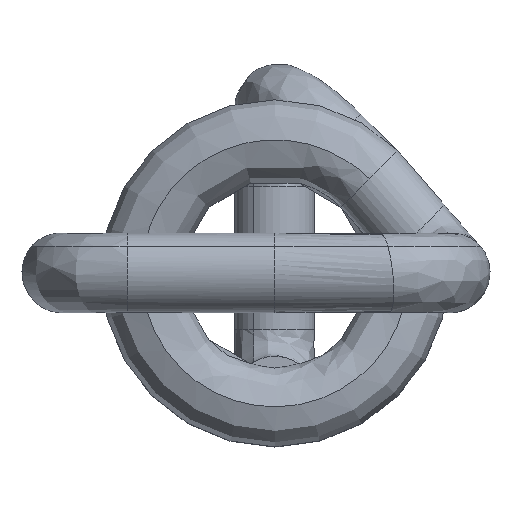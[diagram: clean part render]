
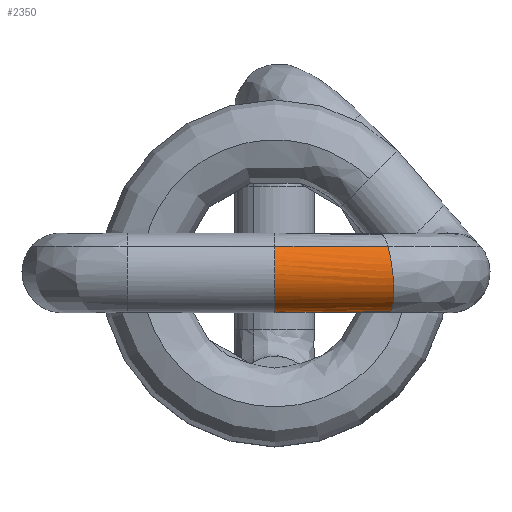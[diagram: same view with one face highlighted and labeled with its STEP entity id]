
A CAD part, top view. The second image highlights one B-rep face of the part: STEP entity #2350.
In plain terms, the highlighted free-form (B-spline) face has degree [3, 1] with [7, 2] control points.
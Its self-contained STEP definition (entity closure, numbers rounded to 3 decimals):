
#13 = CARTESIAN_POINT ( 'NONE',  ( -0.01, -7.278, 20.264 ) ) ;
#22 = LINE ( 'NONE', #184, #2021 ) ;
#46 = DIRECTION ( 'NONE',  ( -1., 0., 0.009 ) ) ;
#71 = CARTESIAN_POINT ( 'NONE',  ( -0.009, -5.831, 21.093 ) ) ;
#139 = LINE ( 'NONE', #805, #558 ) ;
#165 =( BOUNDED_SURFACE ( )  B_SPLINE_SURFACE ( 3, 1, ( 
 ( #1249, #1805 ),
 ( #2199, #1048 ),
 ( #640, #2002 ),
 ( #844, #2393 ),
 ( #1229, #1240 ),
 ( #655, #2211 ),
 ( #1058, #2047 ) ),
 .UNSPECIFIED., .F., .F., .F. ) 
 B_SPLINE_SURFACE_WITH_KNOTS ( ( 4, 3, 4 ),
 ( 2, 2 ),
 ( 0., 0.5, 1. ),
 ( 0., 1. ),
 .UNSPECIFIED. ) 
 GEOMETRIC_REPRESENTATION_ITEM ( )  RATIONAL_B_SPLINE_SURFACE ( (
 ( 1., 1.),
 ( 0.802, 0.802),
 ( 0.802, 0.802),
 ( 1., 1.),
 ( 0.802, 0.802),
 ( 0.802, 0.802),
 ( 1., 1.) ) ) 
 REPRESENTATION_ITEM ( '' )  SURFACE ( )  );
#184 = CARTESIAN_POINT ( 'NONE',  ( 3.982, -6.938, 18.459 ) ) ;
#246 = CARTESIAN_POINT ( 'NONE',  ( -0.009, -6.219, 21.063 ) ) ;
#271 = CARTESIAN_POINT ( 'NONE',  ( -0.009, -5.094, 20.854 ) ) ;
#299 = ORIENTED_EDGE ( 'NONE', *, *, #1197, .F. ) ;
#316 = CARTESIAN_POINT ( 'NONE',  ( 4.221, -4.947, 20.69 ) ) ;
#401 = EDGE_LOOP ( 'NONE', ( #299, #2409, #1605, #1232 ) ) ;
#408 = CARTESIAN_POINT ( 'NONE',  ( -0.011, -7.375, 19.128 ) ) ;
#415 = EDGE_CURVE ( 'NONE', #2134, #1171, #1230, .T. ) ;
#465 = CIRCLE ( 'NONE', #1001, 1.5 ) ;
#558 = VECTOR ( 'NONE', #46, 1000. ) ;
#572 = EDGE_CURVE ( 'NONE', #1883, #2134, #22, .T. ) ;
#616 = CARTESIAN_POINT ( 'NONE',  ( -0.01, -7.441, 19.707 ) ) ;
#625 = CARTESIAN_POINT ( 'NONE',  ( -0.011, -6.938, 18.494 ) ) ;
#640 = CARTESIAN_POINT ( 'NONE',  ( 4.496, -6.449, 21.193 ) ) ;
#655 = CARTESIAN_POINT ( 'NONE',  ( 4.173, -7.593, 19.023 ) ) ;
#678 = VERTEX_POINT ( 'NONE', #316 ) ;
#805 = CARTESIAN_POINT ( 'NONE',  ( 4.221, -4.947, 20.69 ) ) ;
#832 = CARTESIAN_POINT ( 'NONE',  ( -0.011, -7.086, 18.622 ) ) ;
#844 = CARTESIAN_POINT ( 'NONE',  ( 4.427, -7.043, 20.54 ) ) ;
#847 = CARTESIAN_POINT ( 'NONE',  ( -0.009, -6.757, 20.84 ) ) ;
#857 = CARTESIAN_POINT ( 'NONE',  ( -0.009, -4.947, 20.727 ) ) ;
#914 = DIRECTION ( 'NONE',  ( -0.08, -0.664, -0.744 ) ) ;
#1001 = AXIS2_PLACEMENT_3D ( 'NONE', #1089, #1285, #914 ) ;
#1048 = CARTESIAN_POINT ( 'NONE',  ( -0.077, -5.57, 21.288 ) ) ;
#1052 = CARTESIAN_POINT ( 'NONE',  ( -0.009, -7.176, 20.434 ) ) ;
#1058 = CARTESIAN_POINT ( 'NONE',  ( 3.982, -6.938, 18.459 ) ) ;
#1061 = CARTESIAN_POINT ( 'NONE',  ( -0.009, -6.409, 21.011 ) ) ;
#1089 = CARTESIAN_POINT ( 'NONE',  ( 4.101, -5.943, 19.574 ) ) ;
#1171 = VERTEX_POINT ( 'NONE', #1271 ) ;
#1176 = CARTESIAN_POINT ( 'NONE',  ( -0.01, -7.411, 19.9 ) ) ;
#1186 = DIRECTION ( 'NONE',  ( -1., 0., 0.009 ) ) ;
#1197 = EDGE_CURVE ( 'NONE', #678, #1883, #465, .T. ) ;
#1225 = CARTESIAN_POINT ( 'NONE',  ( -0.009, -6.915, 20.721 ) ) ;
#1229 = CARTESIAN_POINT ( 'NONE',  ( 4.358, -7.637, 19.887 ) ) ;
#1230 = B_SPLINE_CURVE_WITH_KNOTS ( 'NONE', 3,
 ( #625, #832, #1778, #408, #1952, #616, #1176, #13, #1052, #1225, #847, #1061, #246, #71, #2386, #2398, #271, #857 ),
 .UNSPECIFIED., .F., .F.,
 ( 4, 2, 2, 2, 2, 2, 2, 2, 4 ),
 ( 0., 0.063, 0.125, 0.188, 0.25, 0.313, 0.375, 0.438, 0.5 ),
 .UNSPECIFIED. ) ;
#1232 = ORIENTED_EDGE ( 'NONE', *, *, #572, .F. ) ;
#1240 = CARTESIAN_POINT ( 'NONE',  ( -0.127, -7.637, 19.928 ) ) ;
#1249 = CARTESIAN_POINT ( 'NONE',  ( 4.215, -4.926, 20.671 ) ) ;
#1271 = CARTESIAN_POINT ( 'NONE',  ( -0.009, -4.947, 20.727 ) ) ;
#1285 = DIRECTION ( 'NONE',  ( 0.973, 0.11, -0.203 ) ) ;
#1535 = CARTESIAN_POINT ( 'NONE',  ( -0.011, -6.938, 18.494 ) ) ;
#1605 = ORIENTED_EDGE ( 'NONE', *, *, #415, .F. ) ;
#1778 = CARTESIAN_POINT ( 'NONE',  ( -0.011, -7.206, 18.778 ) ) ;
#1805 = CARTESIAN_POINT ( 'NONE',  ( -0.27, -4.926, 20.711 ) ) ;
#1883 = VERTEX_POINT ( 'NONE', #2266 ) ;
#1952 = CARTESIAN_POINT ( 'NONE',  ( -0.01, -7.423, 19.32 ) ) ;
#2002 = CARTESIAN_POINT ( 'NONE',  ( 0.011, -6.449, 21.234 ) ) ;
#2021 = VECTOR ( 'NONE', #1186, 1000. ) ;
#2047 = CARTESIAN_POINT ( 'NONE',  ( -0.504, -6.938, 18.499 ) ) ;
#2134 = VERTEX_POINT ( 'NONE', #1535 ) ;
#2199 = CARTESIAN_POINT ( 'NONE',  ( 4.408, -5.57, 21.248 ) ) ;
#2211 = CARTESIAN_POINT ( 'NONE',  ( -0.312, -7.593, 19.063 ) ) ;
#2236 = EDGE_CURVE ( 'NONE', #678, #1171, #139, .T. ) ;
#2237 = FACE_OUTER_BOUND ( 'NONE', #401, .T. ) ;
#2266 = CARTESIAN_POINT ( 'NONE',  ( 3.982, -6.938, 18.459 ) ) ;
#2350 = ADVANCED_FACE ( 'NONE', ( #2237 ), #165, .F. ) ;
#2386 = CARTESIAN_POINT ( 'NONE',  ( -0.009, -5.635, 21.07 ) ) ;
#2393 = CARTESIAN_POINT ( 'NONE',  ( -0.058, -7.043, 20.581 ) ) ;
#2398 = CARTESIAN_POINT ( 'NONE',  ( -0.009, -5.266, 20.951 ) ) ;
#2409 = ORIENTED_EDGE ( 'NONE', *, *, #2236, .T. ) ;
